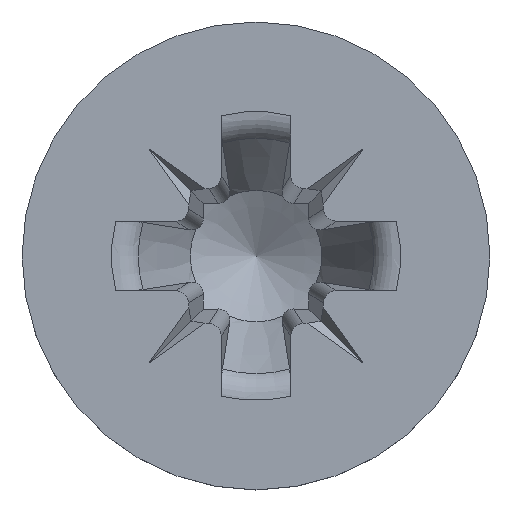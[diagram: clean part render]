
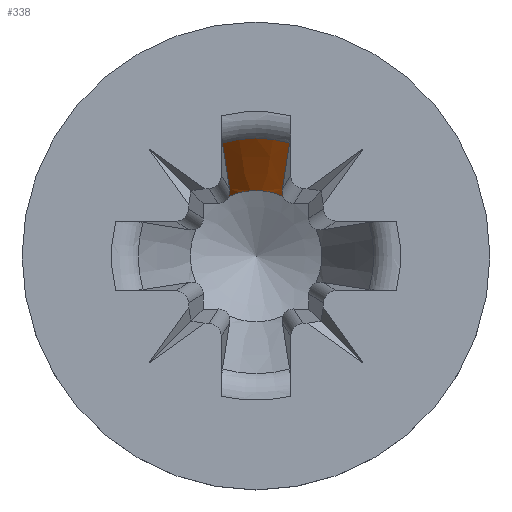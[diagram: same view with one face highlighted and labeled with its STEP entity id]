
A CAD part, top view. The second image highlights one B-rep face of the part: STEP entity #338.
In plain terms, the highlighted conical face has half-angle 26.5 degrees and reference radius 0.66 mm.
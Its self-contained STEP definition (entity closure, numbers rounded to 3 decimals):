
#338=ADVANCED_FACE('',(#433),#424,.F.);
#424=CONICAL_SURFACE('',#1600,0.66,26.5);
#433=FACE_OUTER_BOUND('',#528,.T.);
#528=EDGE_LOOP('',(#723,#724,#725,#726,#727,#728));
#625=CIRCLE('',#1598,1.183);
#626=CIRCLE('',#1599,0.66);
#723=ORIENTED_EDGE('',*,*,#1317,.T.);
#724=ORIENTED_EDGE('',*,*,#1318,.T.);
#725=ORIENTED_EDGE('',*,*,#1319,.T.);
#726=ORIENTED_EDGE('',*,*,#1320,.T.);
#727=ORIENTED_EDGE('',*,*,#1321,.T.);
#728=ORIENTED_EDGE('',*,*,#1322,.T.);
#1168=VERTEX_POINT('',#3541);
#1169=VERTEX_POINT('',#3542);
#1170=VERTEX_POINT('',#3544);
#1171=VERTEX_POINT('',#3549);
#1172=VERTEX_POINT('',#3554);
#1173=VERTEX_POINT('',#3556);
#1317=EDGE_CURVE('',#1168,#1169,#1500,.T.);
#1318=EDGE_CURVE('',#1169,#1170,#625,.T.);
#1319=EDGE_CURVE('',#1170,#1171,#1501,.T.);
#1320=EDGE_CURVE('',#1171,#1172,#1502,.T.);
#1321=EDGE_CURVE('',#1172,#1173,#626,.T.);
#1322=EDGE_CURVE('',#1173,#1168,#1503,.T.);
#1500=B_SPLINE_CURVE_WITH_KNOTS('',3,(#3537,#3538,#3539,#3540),
 .UNSPECIFIED.,.F.,.F.,(4,4),(0.,1.),.UNSPECIFIED.);
#1501=B_SPLINE_CURVE_WITH_KNOTS('',3,(#3545,#3546,#3547,#3548),
 .UNSPECIFIED.,.F.,.F.,(4,4),(0.,1.),.UNSPECIFIED.);
#1502=B_SPLINE_CURVE_WITH_KNOTS('',3,(#3550,#3551,#3552,#3553),
 .UNSPECIFIED.,.F.,.F.,(4,4),(0.,1.),.UNSPECIFIED.);
#1503=B_SPLINE_CURVE_WITH_KNOTS('',3,(#3557,#3558,#3559,#3560),
 .UNSPECIFIED.,.F.,.F.,(4,4),(0.,1.),.UNSPECIFIED.);
#1598=AXIS2_PLACEMENT_3D('',#3543,#1734,#1735);
#1599=AXIS2_PLACEMENT_3D('',#3555,#1736,#1737);
#1600=AXIS2_PLACEMENT_3D('',#3561,#1738,#1739);
#1734=DIRECTION('',(0.,0.,1.));
#1735=DIRECTION('',(1.,0.,0.));
#1736=DIRECTION('',(0.,0.,-1.));
#1737=DIRECTION('',(1.,0.,0.));
#1738=DIRECTION('',(0.,0.,1.));
#1739=DIRECTION('',(1.,0.,0.));
#3537=CARTESIAN_POINT('',(0.265,0.677,0.92));
#3538=CARTESIAN_POINT('',(0.289,0.831,1.224));
#3539=CARTESIAN_POINT('',(0.313,0.982,1.529));
#3540=CARTESIAN_POINT('',(0.337,1.134,1.834));
#3541=CARTESIAN_POINT('',(0.265,0.677,0.92));
#3542=CARTESIAN_POINT('',(0.337,1.134,1.834));
#3543=CARTESIAN_POINT('',(0.,0.,1.834));
#3544=CARTESIAN_POINT('',(-0.337,1.134,1.834));
#3545=CARTESIAN_POINT('',(-0.337,1.134,1.834));
#3546=CARTESIAN_POINT('',(-0.313,0.982,1.529));
#3547=CARTESIAN_POINT('',(-0.289,0.831,1.224));
#3548=CARTESIAN_POINT('',(-0.265,0.677,0.92));
#3549=CARTESIAN_POINT('',(-0.265,0.677,0.92));
#3550=CARTESIAN_POINT('',(-0.265,0.677,0.92));
#3551=CARTESIAN_POINT('',(-0.262,0.654,0.874));
#3552=CARTESIAN_POINT('',(-0.261,0.63,0.828));
#3553=CARTESIAN_POINT('',(-0.269,0.603,0.785));
#3554=CARTESIAN_POINT('',(-0.269,0.603,0.785));
#3555=CARTESIAN_POINT('',(0.,0.,0.785));
#3556=CARTESIAN_POINT('',(0.269,0.603,0.785));
#3557=CARTESIAN_POINT('',(0.269,0.603,0.785));
#3558=CARTESIAN_POINT('',(0.261,0.63,0.828));
#3559=CARTESIAN_POINT('',(0.262,0.654,0.874));
#3560=CARTESIAN_POINT('',(0.265,0.677,0.92));
#3561=CARTESIAN_POINT('',(0.,0.,0.785));
